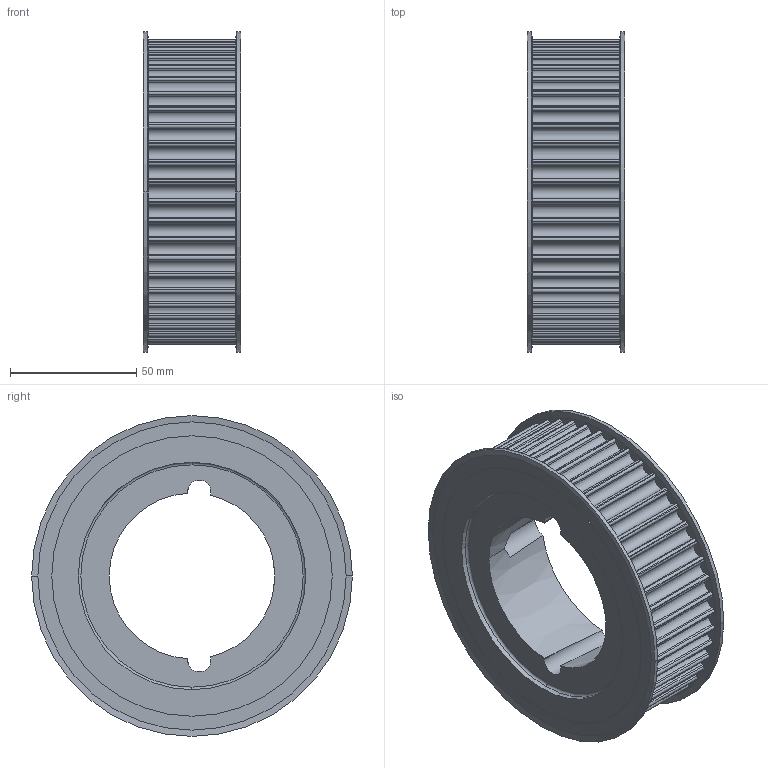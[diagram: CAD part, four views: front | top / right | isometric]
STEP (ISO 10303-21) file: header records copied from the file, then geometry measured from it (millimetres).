
FILE_DESCRIPTION( ( '' ), '1' );
FILE_NAME( 'C:/Users/Stangenbergd/Documents/CAD_Step/1/17477224.stp', '2021-10-19T10:18:31', ( '' ), ( '' ), ' ', ' ', ' ' );
FILE_SCHEMA( ( 'CONFIG_CONTROL_DESIGN' ) );
Length unit declared in the file: millimetre
Products named in the file (1): 1
Bounding box: 38.4 x 127 x 127 mm (x, y, z)
Volume: 255122.6 mm3; surface area: 51408.3 mm2
Topology: 1 solids, 1 shells, 334 faces, 970 edges, 644 vertices
Faces by surface type: cylinder 212, plane 104, cone 14, torus 4
Entity records: 11384 total; most frequent: CARTESIAN_POINT 2089, DIRECTION 2078, ORIENTED_EDGE 1940, EDGE_CURVE 970, AXIS2_PLACEMENT_3D 785, VERTEX_POINT 644, LINE 508, VECTOR 508
